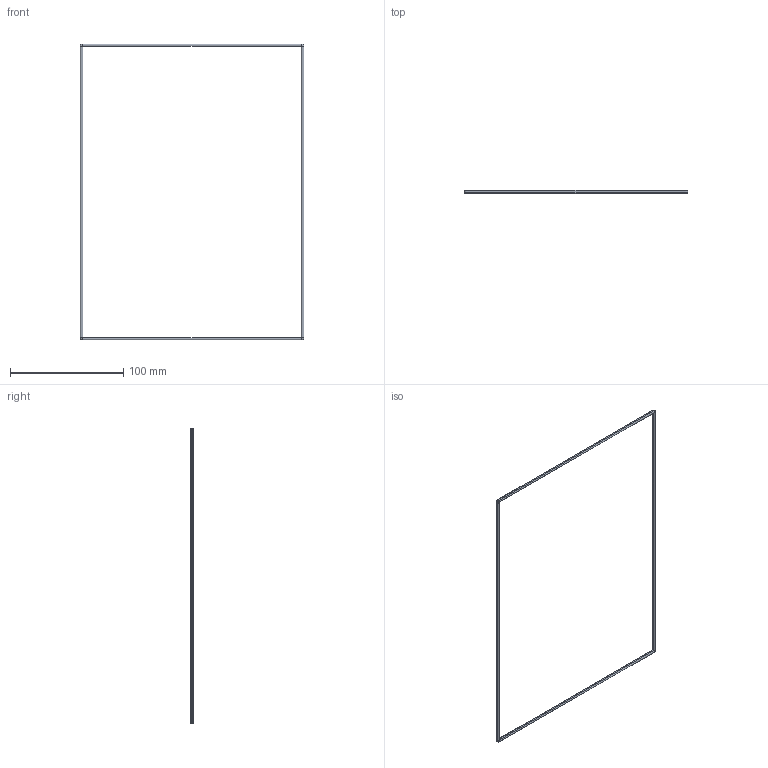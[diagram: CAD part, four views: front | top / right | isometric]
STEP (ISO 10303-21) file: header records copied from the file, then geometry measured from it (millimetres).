
FILE_DESCRIPTION (( 'STEP AP214' ), '1' );
FILE_NAME ('Junta torica PP105.STEP', '2017-08-24T07:32:32', ( 'aaa' ), ( '' ), 'SwSTEP 2.0', 'SolidWorks 2013', '' );
FILE_SCHEMA (( 'AUTOMOTIVE_DESIGN' ));
Length unit declared in the file: millimetre
Products named in the file (1): Junta torica PP105
Bounding box: 197.5 x 2.49 x 261.5 mm (x, y, z)
Volume: 3994.4 mm3; surface area: 6936.1 mm2
Topology: 1 solids, 1 shells, 28 faces, 60 edges, 24 vertices
Faces by surface type: cylinder 12, torus 8, plane 8
Entity records: 1010 total; most frequent: DIRECTION 134, CARTESIAN_POINT 105, ORIENTED_EDGE 104, AXIS2_PLACEMENT_3D 53, EDGE_CURVE 52, UNCERTAINTY_MEASURE_WITH_UNIT 31, SURFACE_STYLE_USAGE 30, SURFACE_SIDE_STYLE 30
